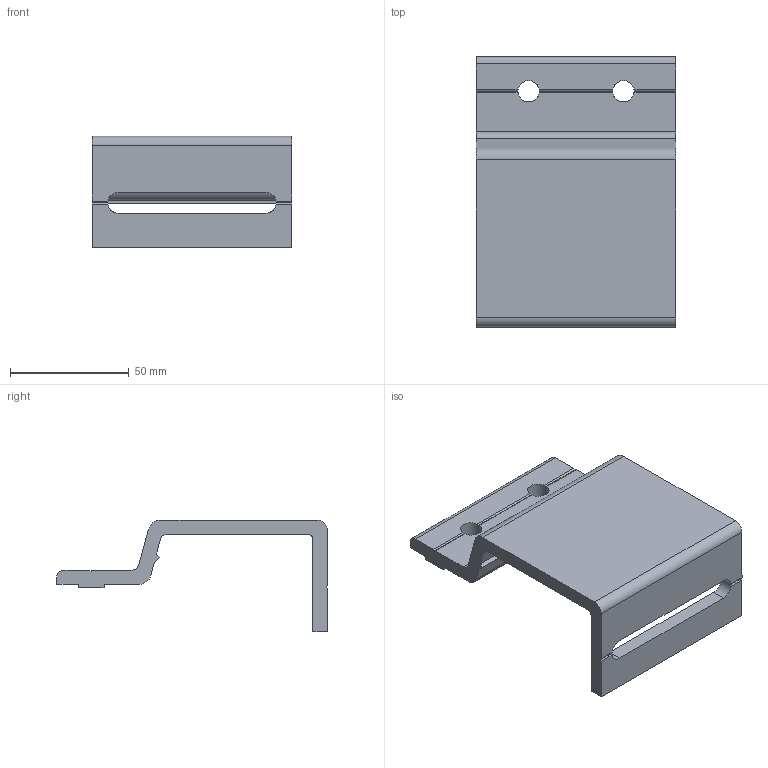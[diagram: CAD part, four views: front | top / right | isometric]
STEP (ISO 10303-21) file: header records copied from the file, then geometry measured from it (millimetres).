
FILE_DESCRIPTION (( 'STEP AP214' ), '1' );
FILE_NAME ('FAHBS 84.step', '2017-04-05T07:59:54', ( '' ), ( '' ), 'SwSTEP 2.0', 'SolidWorks 2015', '' );
FILE_SCHEMA (( 'AUTOMOTIVE_DESIGN' ));
Length unit declared in the file: millimetre
Products named in the file (1): FAHBS 84
Bounding box: 84 x 114 x 47 mm (x, y, z)
Volume: 82446.2 mm3; surface area: 31418.4 mm2
Topology: 1 solids, 1 shells, 46 faces, 141 edges, 94 vertices
Faces by surface type: plane 33, cylinder 13
Entity records: 1619 total; most frequent: CARTESIAN_POINT 330, ORIENTED_EDGE 282, DIRECTION 247, EDGE_CURVE 141, VECTOR 97, LINE 97, VERTEX_POINT 94, AXIS2_PLACEMENT_3D 75
